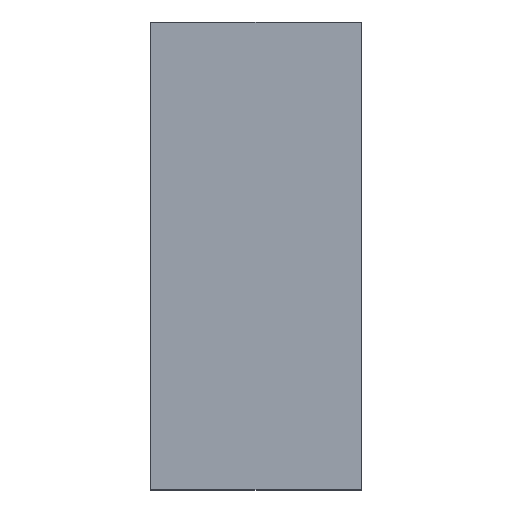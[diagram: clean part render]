
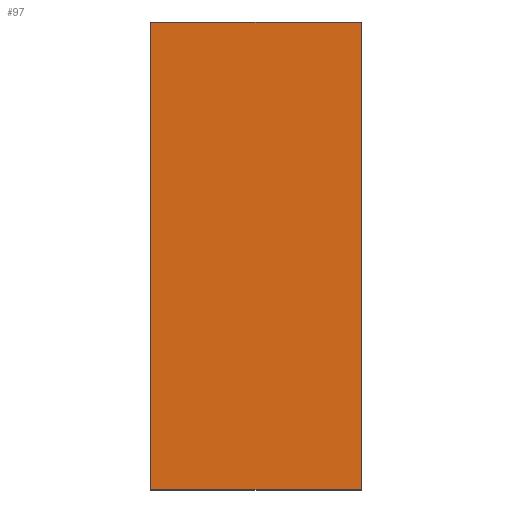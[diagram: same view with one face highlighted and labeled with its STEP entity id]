
A CAD part, top view. The second image highlights one B-rep face of the part: STEP entity #97.
In plain terms, the highlighted planar face has unit normal (0, 0, 1).
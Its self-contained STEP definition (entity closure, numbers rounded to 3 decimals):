
#97=ADVANCED_FACE('',(#175),#1233,.T.);
#175=FACE_OUTER_BOUND('',#259,.T.);
#259=EDGE_LOOP('',(#632,#633,#634,#635));
#632=ORIENTED_EDGE('',*,*,#838,.T.);
#633=ORIENTED_EDGE('',*,*,#839,.T.);
#634=ORIENTED_EDGE('',*,*,#840,.F.);
#635=ORIENTED_EDGE('',*,*,#835,.F.);
#835=EDGE_CURVE('',#1153,#1154,#1029,.T.);
#838=EDGE_CURVE('',#1153,#1156,#1032,.T.);
#839=EDGE_CURVE('',#1156,#1157,#1033,.T.);
#840=EDGE_CURVE('',#1154,#1157,#1034,.T.);
#1029=B_SPLINE_CURVE_WITH_KNOTS('',1,(#2052,#2053),.UNSPECIFIED.,.F.,.F.,
(2,2),(0.,700.),.UNSPECIFIED.);
#1032=B_SPLINE_CURVE_WITH_KNOTS('',1,(#2058,#2059),.UNSPECIFIED.,.F.,.F.,
(2,2),(-3620.,-1820.),.UNSPECIFIED.);
#1033=B_SPLINE_CURVE_WITH_KNOTS('',1,(#2060,#2061),.UNSPECIFIED.,.F.,.F.,
(2,2),(0.,700.),.UNSPECIFIED.);
#1034=B_SPLINE_CURVE_WITH_KNOTS('',1,(#2062,#2063),.UNSPECIFIED.,.F.,.F.,
(2,2),(-3620.,-1820.),.UNSPECIFIED.);
#1153=VERTEX_POINT('',#2043);
#1154=VERTEX_POINT('',#2044);
#1156=VERTEX_POINT('',#2046);
#1157=VERTEX_POINT('',#2047);
#1233=PLANE('',#1399);
#1399=AXIS2_PLACEMENT_3D('',#2037,#1480,$);
#1480=DIRECTION('',(0.,0.,1.));
#2037=CARTESIAN_POINT('',(5336.81,-235.,740.));
#2043=CARTESIAN_POINT('',(5336.81,-235.,740.));
#2044=CARTESIAN_POINT('',(4436.81,-235.,740.));
#2046=CARTESIAN_POINT('',(5336.81,1765.,740.));
#2047=CARTESIAN_POINT('',(4436.81,1765.,740.));
#2052=CARTESIAN_POINT('',(5336.81,-235.,740.));
#2053=CARTESIAN_POINT('',(4436.81,-235.,740.));
#2058=CARTESIAN_POINT('',(5336.81,-235.,740.));
#2059=CARTESIAN_POINT('',(5336.81,1765.,740.));
#2060=CARTESIAN_POINT('',(5336.81,1765.,740.));
#2061=CARTESIAN_POINT('',(4436.81,1765.,740.));
#2062=CARTESIAN_POINT('',(4436.81,-235.,740.));
#2063=CARTESIAN_POINT('',(4436.81,1765.,740.));
